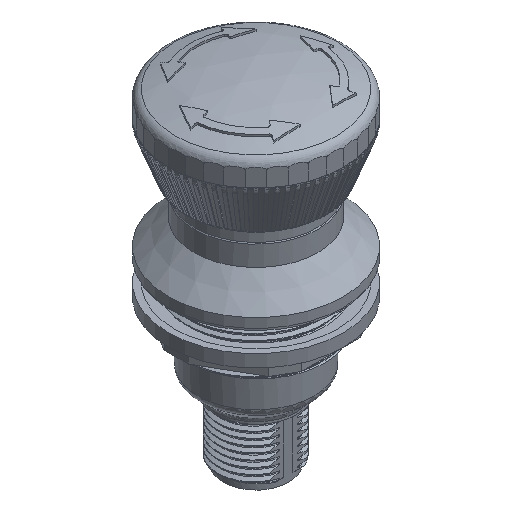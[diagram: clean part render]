
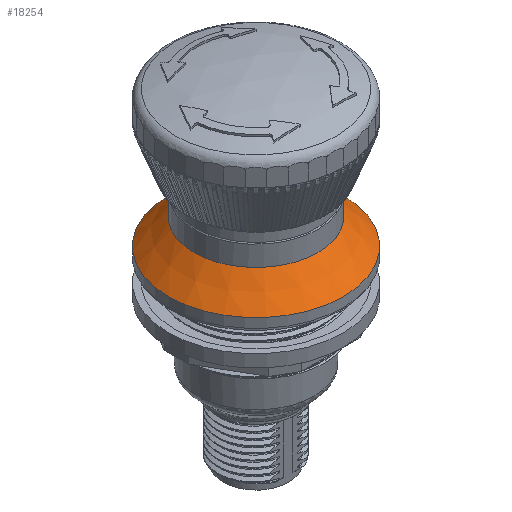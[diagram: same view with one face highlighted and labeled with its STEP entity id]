
A CAD part, isometric view. The second image highlights one B-rep face of the part: STEP entity #18254.
In plain terms, the highlighted conical face has half-angle 45 degrees and reference radius 11.963 mm.
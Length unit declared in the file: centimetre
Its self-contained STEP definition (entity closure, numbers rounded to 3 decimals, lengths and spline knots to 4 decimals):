
#545=CONICAL_SURFACE('',#19401,1.1962,0.785);
#1466=FACE_OUTER_BOUND('',#2497,.T.);
#2497=EDGE_LOOP('',(#12769,#12770,#12771,#12772));
#3412=CIRCLE('',#19400,0.9925);
#3413=CIRCLE('',#19402,1.4);
#5285=LINE('',#37782,#6040);
#6040=VECTOR('',#21950,1.1962);
#7073=VERTEX_POINT('',#37776);
#7074=VERTEX_POINT('',#37780);
#9164=EDGE_CURVE('',#7073,#7073,#3412,.T.);
#9166=EDGE_CURVE('',#7074,#7074,#3413,.T.);
#9167=EDGE_CURVE('',#7074,#7073,#5285,.T.);
#12769=ORIENTED_EDGE('',*,*,#9166,.F.);
#12770=ORIENTED_EDGE('',*,*,#9167,.T.);
#12771=ORIENTED_EDGE('',*,*,#9164,.T.);
#12772=ORIENTED_EDGE('',*,*,#9167,.F.);
#18254=ADVANCED_FACE('',(#1466),#545,.T.);
#19400=AXIS2_PLACEMENT_3D('',#37777,#21943,#21944);
#19401=AXIS2_PLACEMENT_3D('',#37779,#21946,#21947);
#19402=AXIS2_PLACEMENT_3D('',#37781,#21948,#21949);
#21943=DIRECTION('center_axis',(0.,0.,
-1.));
#21944=DIRECTION('ref_axis',(0.,-1.,0.));
#21946=DIRECTION('center_axis',(0.,0.,
-1.));
#21947=DIRECTION('ref_axis',(0.,-1.,0.));
#21948=DIRECTION('center_axis',(0.,0.,
-1.));
#21949=DIRECTION('ref_axis',(0.,-1.,0.));
#21950=DIRECTION('',(0.,-0.707,0.707));
#37776=CARTESIAN_POINT('',(0.,0.9925,0.5575));
#37777=CARTESIAN_POINT('Origin',(0.,0.,
0.5575));
#37779=CARTESIAN_POINT('Origin',(0.,0.,
0.3537));
#37780=CARTESIAN_POINT('',(0.,1.4,0.15));
#37781=CARTESIAN_POINT('Origin',(0.,0.,
0.15));
#37782=CARTESIAN_POINT('',(0.,1.1962,0.3537));
